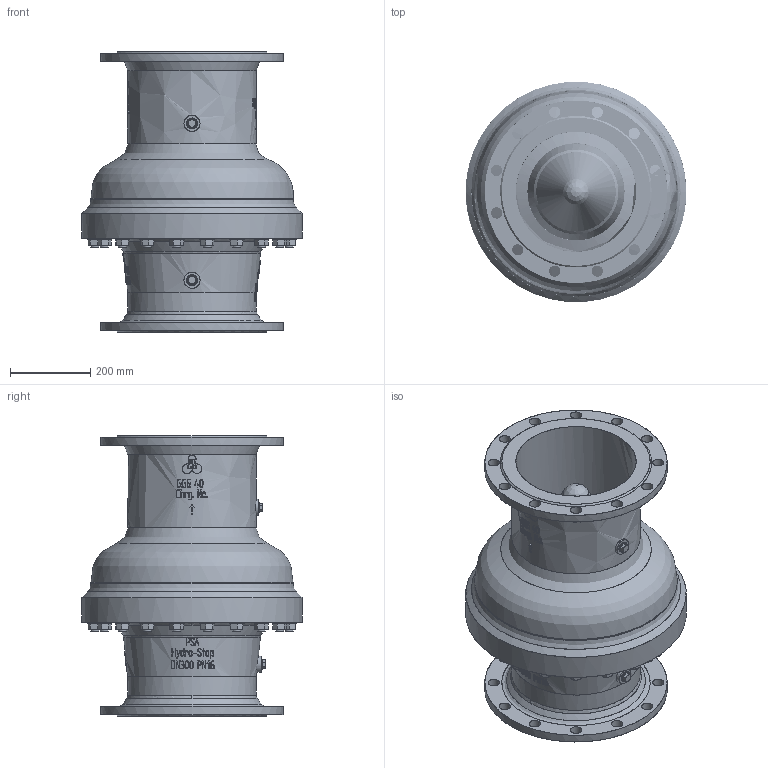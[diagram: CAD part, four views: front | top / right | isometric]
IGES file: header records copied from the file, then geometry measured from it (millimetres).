
Start section: P
Global section: file name: PSA_Hydro-Stop_DN300_PN16.igs; native system: By Siemens PLM Incorporated; preprocessor: XPlus GENERIC/IGES 25.1.153; author: Christin-Michelle Fremgen; organization: PSA Wasserarmaturen GmbH; date: 20241009.155132; units: millimetre
Bounding box: 550 x 548.55 x 700 mm (x, y, z)
Surface area: 2805478.9 mm2 (no closed solid volume)
Topology: 0 solids, 0 shells, 1451 faces, 7896 edges, 7894 vertices
Faces by surface type: bspline 1451
